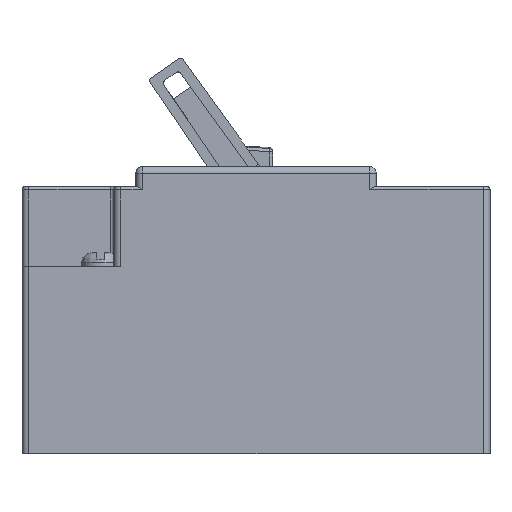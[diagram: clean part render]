
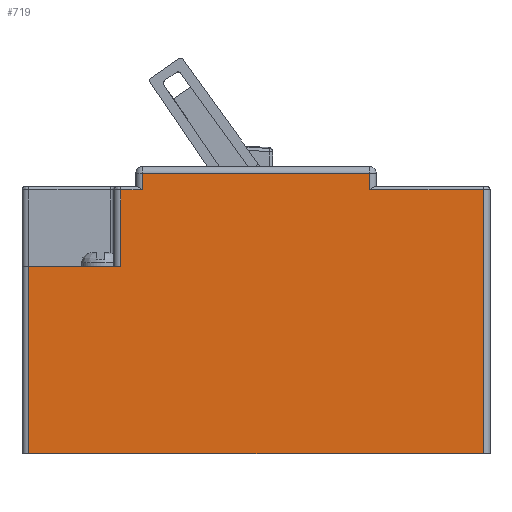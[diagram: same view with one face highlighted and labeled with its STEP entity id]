
A CAD part, left-side view. The second image highlights one B-rep face of the part: STEP entity #719.
In plain terms, the highlighted planar face has unit normal (-1, 0, 0).
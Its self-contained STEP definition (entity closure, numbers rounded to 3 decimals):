
#375=FACE_OUTER_BOUND('',#1418,.T.);
#719=ADVANCED_FACE('',(#375),#1067,.F.);
#1067=PLANE('',#6719);
#1418=EDGE_LOOP('',(#2495,#2496,#2497,#2498,#2499,#2500,#2501,#2502,#2503,
#2504));
#2495=ORIENTED_EDGE('',*,*,#4811,.T.);
#2496=ORIENTED_EDGE('',*,*,#4812,.T.);
#2497=ORIENTED_EDGE('',*,*,#4813,.T.);
#2498=ORIENTED_EDGE('',*,*,#4814,.T.);
#2499=ORIENTED_EDGE('',*,*,#4815,.T.);
#2500=ORIENTED_EDGE('',*,*,#4816,.T.);
#2501=ORIENTED_EDGE('',*,*,#4817,.T.);
#2502=ORIENTED_EDGE('',*,*,#4538,.F.);
#2503=ORIENTED_EDGE('',*,*,#4818,.T.);
#2504=ORIENTED_EDGE('',*,*,#4562,.F.);
#3941=VERTEX_POINT('',#9195);
#3942=VERTEX_POINT('',#9197);
#3959=VERTEX_POINT('',#9243);
#3960=VERTEX_POINT('',#9245);
#4141=VERTEX_POINT('',#9736);
#4142=VERTEX_POINT('',#9738);
#4143=VERTEX_POINT('',#9740);
#4144=VERTEX_POINT('',#9742);
#4145=VERTEX_POINT('',#9744);
#4146=VERTEX_POINT('',#9746);
#4538=EDGE_CURVE('',#3941,#3942,#5421,.T.);
#4562=EDGE_CURVE('',#3959,#3960,#5433,.T.);
#4811=EDGE_CURVE('',#3959,#4141,#5605,.T.);
#4812=EDGE_CURVE('',#4141,#4142,#5606,.T.);
#4813=EDGE_CURVE('',#4142,#4143,#5607,.T.);
#4814=EDGE_CURVE('',#4143,#4144,#5608,.T.);
#4815=EDGE_CURVE('',#4144,#4145,#5609,.T.);
#4816=EDGE_CURVE('',#4145,#4146,#5610,.T.);
#4817=EDGE_CURVE('',#4146,#3942,#5611,.T.);
#4818=EDGE_CURVE('',#3941,#3960,#5612,.T.);
#5421=LINE('',#9196,#5997);
#5433=LINE('',#9244,#6009);
#5605=LINE('',#9735,#6181);
#5606=LINE('',#9737,#6182);
#5607=LINE('',#9739,#6183);
#5608=LINE('',#9741,#6184);
#5609=LINE('',#9743,#6185);
#5610=LINE('',#9745,#6186);
#5611=LINE('',#9747,#6187);
#5612=LINE('',#9748,#6188);
#5997=VECTOR('',#7301,1.);
#6009=VECTOR('',#7349,1.);
#6181=VECTOR('',#7797,1.);
#6182=VECTOR('',#7798,1.);
#6183=VECTOR('',#7799,1.);
#6184=VECTOR('',#7800,1.);
#6185=VECTOR('',#7801,1.);
#6186=VECTOR('',#7802,1.);
#6187=VECTOR('',#7803,1.);
#6188=VECTOR('',#7804,1.);
#6719=AXIS2_PLACEMENT_3D('',#9749,#7805,#7806);
#7301=DIRECTION('',(0.,-1.,0.));
#7349=DIRECTION('',(0.,1.,0.));
#7797=DIRECTION('',(0.,0.,1.));
#7798=DIRECTION('',(0.,1.,0.));
#7799=DIRECTION('',(0.,0.,1.));
#7800=DIRECTION('',(0.,1.,0.));
#7801=DIRECTION('',(0.,0.,-1.));
#7802=DIRECTION('',(0.,1.,0.));
#7803=DIRECTION('',(0.,0.,-1.));
#7804=DIRECTION('',(0.,0.,-1.));
#7805=DIRECTION('',(1.,0.,0.));
#7806=DIRECTION('',(0.,1.,0.));
#9195=CARTESIAN_POINT('',(-34.,-1.,28.));
#9196=CARTESIAN_POINT('',(-34.,-70.,28.));
#9197=CARTESIAN_POINT('',(-34.,-14.75,28.));
#9243=CARTESIAN_POINT('',(-34.,-69.,0.));
#9244=CARTESIAN_POINT('',(-34.,-70.,0.));
#9245=CARTESIAN_POINT('',(-34.,-1.,0.));
#9735=CARTESIAN_POINT('',(-34.,-69.,0.));
#9736=CARTESIAN_POINT('',(-34.,-69.,39.5));
#9737=CARTESIAN_POINT('',(-34.,-70.,39.5));
#9738=CARTESIAN_POINT('',(-34.,-52.,39.5));
#9739=CARTESIAN_POINT('',(-34.,-52.,0.));
#9740=CARTESIAN_POINT('',(-34.,-52.,42.));
#9741=CARTESIAN_POINT('',(-34.,-18.,42.));
#9742=CARTESIAN_POINT('',(-34.,-18.,42.));
#9743=CARTESIAN_POINT('',(-34.,-18.,0.));
#9744=CARTESIAN_POINT('',(-34.,-18.,39.5));
#9745=CARTESIAN_POINT('',(-34.,-70.,39.5));
#9746=CARTESIAN_POINT('',(-34.,-14.75,39.5));
#9747=CARTESIAN_POINT('',(-34.,-14.75,0.));
#9748=CARTESIAN_POINT('',(-34.,-1.,0.));
#9749=CARTESIAN_POINT('',(-34.,-70.,0.));
